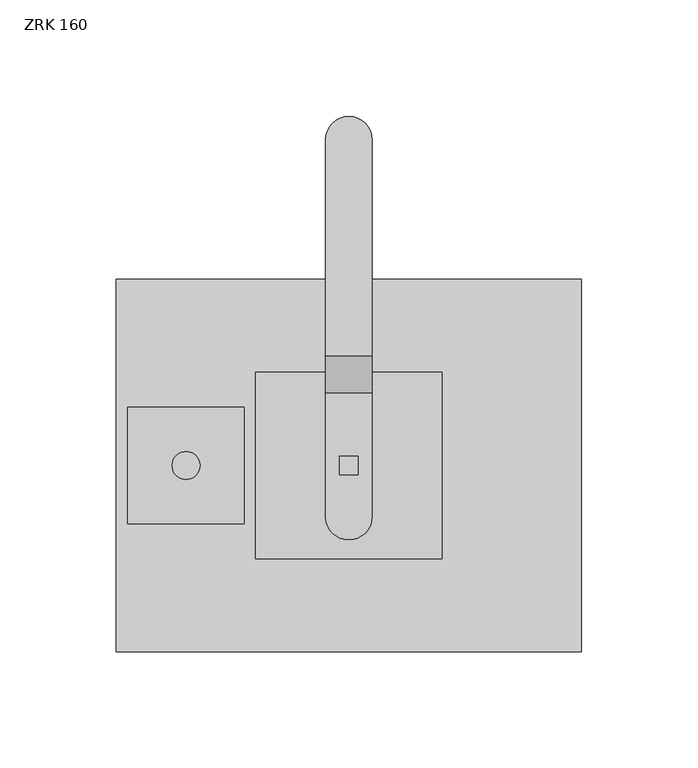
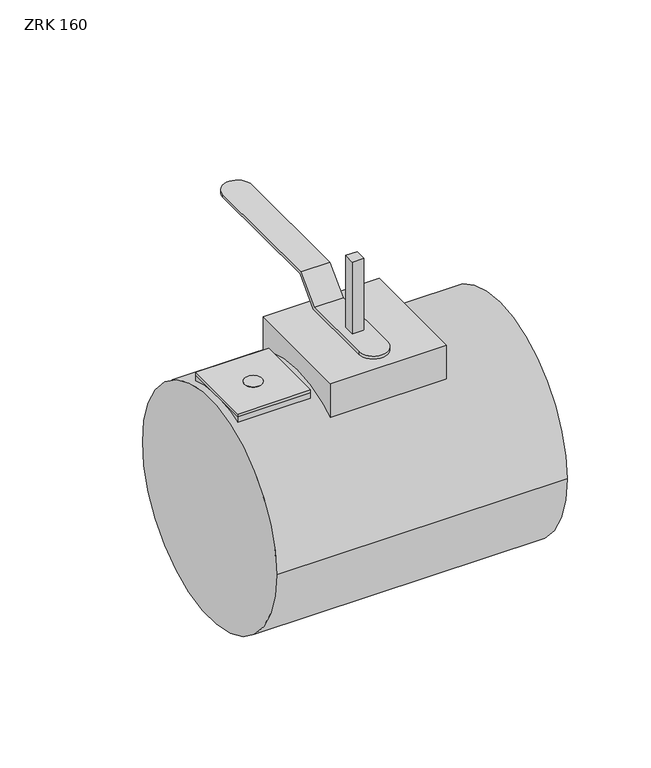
"""IFC4 building model written with IfcOpenShell, lengths in millimetres: damper geometry, KORF_Заслонка_Круглая_ZRK_Ручка : ZRK 160."""

from ifc_helpers import new_model, si_unit, point, frame, frame_2d, origin, origin_2d, place, context, project, spatial, polyline, circle_curve, trimmed, segment, composite_curve, outline, extrude, source, transform, mapped, element, save
from ifc_brep_helpers import plane_surface, cylinder_surface, revolved_surface, advanced_brep


def zrk_160_3ae2b865(model_context):
    return source(origin(), model_context, "Body", "SolidModel", [
        extrude(outline(composite_curve([segment(trimmed(circle_curve(frame_2d((30.0, 0.0)), 6.0), [point((36.0, 0.0))], [point((24.0, 0.0))], False, "CARTESIAN"), True, "CONTINUOUS"), segment(trimmed(circle_curve(frame_2d((30.0, 0.0)), 6.0), [point((24.0, 0.0))], [point((36.0, 0.0))], False, "CARTESIAN"), True, "CONTINUOUS")], self_intersect=False)), frame((0.0, 0.0, 80.0), z_axis=(0.0, 0.0, 1.0), x_axis=(1.0, 0.0, 0.0)), (0.0, 0.0, 1.0), 2.0),
        extrude(outline(polyline([(55.0, 25.0), (55.0, -25.0), (5.0, -25.0), (5.0, 25.0), (55.0, 25.0)]), holes=[composite_curve([segment(trimmed(circle_curve(frame_2d((30.0, 0.0)), 6.0), [point((24.0, 0.0))], [point((36.0, 0.0))], True, "CARTESIAN"), True, "CONTINUOUS"), segment(trimmed(circle_curve(frame_2d((30.0, 0.0)), 6.0), [point((36.0, 0.0))], [point((24.0, 0.0))], True, "CARTESIAN"), True, "CONTINUOUS")], self_intersect=False)]), frame((0.0, 0.0, 80.0), z_axis=(0.0, 0.0, 1.0), x_axis=(1.0, 0.0, 0.0)), (0.0, 0.0, 1.0), 2.0),
        extrude(outline(composite_curve([segment(trimmed(circle_curve(origin_2d(), 80.0), [point((-80.0, 0.0))], [point((80.0, 0.0))], False, "CARTESIAN"), True, "CONTINUOUS"), segment(trimmed(circle_curve(origin_2d(), 80.0), [point((80.0, 0.0))], [point((-80.0, 0.0))], False, "CARTESIAN"), True, "CONTINUOUS")], self_intersect=False)), frame((0.0, 0.0, 0.0), z_axis=(1.0, 0.0, 0.0), x_axis=(0.0, 1.0, 0.0)), (0.0, 0.0, 1.0), 200.0),
        advanced_brep(
        [(55.0, 25.0, 80.0), (5.0, 25.0, 80.0), (5.0, 0.0, 80.0), (5.0, -25.0, 80.0), (55.0, -25.0, 80.0), (55.0, 0.0, 80.0), (55.0, 25.0, 75.9934208), (5.0, 25.0, 75.9934208), (5.0, -25.0, 75.9934208), (55.0, -25.0, 75.9934208)],
        [
            (0, 1),
            (1, 2),
            (2, 3),
            (3, 4),
            (4, 5),
            (5, 0),
            (0, 6),
            (6, 7),
            (7, 1),
            (7, 2, circle_curve(frame((5.0, 0.0, 0.0), z_axis=(1.0, 0.0, 0.0), x_axis=(0.0, 0.0, -1.0)), 80.0)),
            (2, 8, circle_curve(frame((5.0, 0.0, 0.0), z_axis=(1.0, 0.0, 0.0), x_axis=(0.0, 0.0, -1.0)), 80.0)),
            (8, 3),
            (8, 9),
            (9, 4),
            (9, 5, circle_curve(frame((55.0, 0.0, 0.0), z_axis=(-1.0, 0.0, 0.0), x_axis=(0.0, 0.0, -1.0)), 80.0)),
            (5, 6, circle_curve(frame((55.0, 0.0, 0.0), z_axis=(-1.0, 0.0, 0.0), x_axis=(0.0, 0.0, -1.0)), 80.0)),
        ],
        [
            plane_surface(frame((5.0, 25.0, 80.0), z_axis=(0.0, 0.0, 1.0), x_axis=(-1.0, 0.0, 0.0))),
            plane_surface(frame((55.0, 25.0, 80.0), z_axis=(0.0, 1.0, 0.0), x_axis=(0.0, 0.0, -1.0))),
            plane_surface(frame((5.0, 25.0, 80.0), z_axis=(-1.0, 0.0, 0.0), x_axis=(0.0, 0.0, -1.0))),
            plane_surface(frame((5.0, -25.0, 80.0), z_axis=(0.0, -1.0, 0.0), x_axis=(0.0, 0.0, -1.0))),
            plane_surface(frame((55.0, -25.0, 80.0), z_axis=(1.0, 0.0, 0.0), x_axis=(0.0, 0.0, -1.0))),
            revolved_surface(polyline([(5.0, 0.0, -80.0), (55.0, 0.0, -80.0)]), (200.0, 0.0, 0.0), (-1.0, 0.0, 0.0)),
        ],
        [
            (0, [[1, 2, 3, 4, 5, 6]]),
            (1, [[-1, 7, 8, 9]]),
            (2, [[-2, -9, 10]]),
            (2, [[-3, 11, 12]]),
            (3, [[-4, -12, 13, 14]]),
            (4, [[-5, -14, 15]]),
            (4, [[-6, 16, -7]]),
            (5, [[-8, -16, -15, -13, -11, -10]]),
        ],
    ),
        extrude(outline(composite_curve([segment(polyline([(-4.0, 148.0), (4.0, 148.0), (4.0, 79.8999374)]), True, "CONTINUOUS"), segment(trimmed(circle_curve(origin_2d(), 80.0), [point((4.0, 79.8999374))], [point((-4.0, 79.8999374))], True, "CARTESIAN"), True, "CONTINUOUS"), segment(polyline([(-4.0, 79.8999374), (-4.0, 148.0)]), True, "CONTINUOUS")], self_intersect=False)), frame((96.0, 0.0, 0.0), z_axis=(1.0, 0.0, 0.0), x_axis=(0.0, 1.0, 0.0)), (0.0, 0.0, 1.0), 8.0),
        advanced_brep(
        [(90.0, 48.0, 110.0), (90.0, 32.0, 94.0), (90.0, -22.0, 94.0), (90.0, -22.0, 96.0), (90.0, 31.1715729, 96.0), (90.0, 47.1715729, 112.0), (90.0, 140.0, 112.0), (90.0, 140.0, 110.0), (110.0, 47.1715729, 112.0), (110.0, 31.1715729, 96.0), (110.0, -22.0, 96.0), (110.0, -22.0, 94.0), (110.0, 32.0, 94.0), (110.0, 48.0, 110.0), (110.0, 140.0, 110.0), (110.0, 140.0, 112.0), (100.0, 150.0, 110.0), (100.0, 150.0, 112.0), (100.0, -32.0, 96.0), (96.0, 4.0, 96.0), (104.0, 4.0, 96.0), (104.0, -4.0, 96.0), (96.0, -4.0, 96.0), (100.0, -32.0, 94.0), (104.0, 4.0, 94.0), (96.0, 4.0, 94.0), (96.0, -4.0, 94.0), (104.0, -4.0, 94.0)],
        [
            (0, 1),
            (1, 2),
            (2, 3),
            (3, 4),
            (4, 5),
            (5, 6),
            (6, 7),
            (7, 0),
            (8, 9),
            (9, 10),
            (10, 11),
            (11, 12),
            (12, 13),
            (13, 14),
            (14, 15),
            (15, 8),
            (13, 0),
            (7, 16, circle_curve(frame((100.0, 140.0, 110.0), z_axis=(0.0, 0.0, -1.0), x_axis=(1.0, 0.0, 0.0)), 10.0)),
            (16, 14, circle_curve(frame((100.0, 140.0, 110.0), z_axis=(0.0, 0.0, -1.0), x_axis=(1.0, 0.0, 0.0)), 10.0)),
            (5, 8),
            (15, 17, circle_curve(frame((100.0, 140.0, 112.0), z_axis=(0.0, 0.0, 1.0), x_axis=(1.0, 0.0, 0.0)), 10.0)),
            (17, 6, circle_curve(frame((100.0, 140.0, 112.0), z_axis=(0.0, 0.0, 1.0), x_axis=(1.0, 0.0, 0.0)), 10.0)),
            (4, 9),
            (3, 18, circle_curve(frame((100.0, -22.0, 96.0), z_axis=(0.0, 0.0, 1.0), x_axis=(1.0, 0.0, 0.0)), 10.0)),
            (18, 10, circle_curve(frame((100.0, -22.0, 96.0), z_axis=(0.0, 0.0, 1.0), x_axis=(1.0, 0.0, 0.0)), 10.0)),
            (19, 20),
            (20, 21),
            (21, 22),
            (22, 19),
            (1, 12),
            (11, 23, circle_curve(frame((100.0, -22.0, 94.0), z_axis=(0.0, 0.0, -1.0), x_axis=(1.0, 0.0, 0.0)), 10.0)),
            (23, 2, circle_curve(frame((100.0, -22.0, 94.0), z_axis=(0.0, 0.0, -1.0), x_axis=(1.0, 0.0, 0.0)), 10.0)),
            (24, 25),
            (25, 26),
            (26, 27),
            (27, 24),
            (24, 20),
            (19, 25),
            (22, 26),
            (21, 27),
        ],
        [
            plane_surface(frame((90.0, 150.0, 110.0), z_axis=(-1.0, 0.0, 0.0), x_axis=(0.0, -1.0, 0.0))),
            plane_surface(frame((110.0, 150.0, 110.0), z_axis=(1.0, 0.0, 0.0), x_axis=(0.0, 1.0, 0.0))),
            plane_surface(frame((110.0, 48.0, 110.0), z_axis=(0.0, 0.0, -1.0), x_axis=(-1.0, 0.0, 0.0))),
            plane_surface(frame((110.0, 150.0, 112.0), z_axis=(0.0, 0.0, 1.0), x_axis=(-1.0, 0.0, 0.0))),
            plane_surface(frame((110.0, 47.1715729, 112.0), z_axis=(0.0, -0.7071067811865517, 0.7071067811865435), x_axis=(-1.0, 0.0, 0.0))),
            plane_surface(frame((110.0, 31.1715729, 96.0), z_axis=(0.0, 0.0, 1.0), x_axis=(-1.0, 0.0, 0.0))),
            plane_surface(frame((110.0, -32.0, 94.0), z_axis=(0.0, 0.0, -1.0), x_axis=(-1.0, 0.0, 0.0))),
            plane_surface(frame((110.0, 32.0, 94.0), z_axis=(0.0, 0.7071067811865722, -0.7071067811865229), x_axis=(-1.0, 0.0, 0.0))),
            plane_surface(frame((104.0, 4.0, 110.0), z_axis=(0.0, -1.0, 0.0), x_axis=(0.0, 0.0, -1.0))),
            plane_surface(frame((96.0, 4.0, 110.0), z_axis=(1.0, 0.0, 0.0), x_axis=(0.0, 0.0, -1.0))),
            plane_surface(frame((96.0, -4.0, 110.0), z_axis=(0.0, 1.0, 0.0), x_axis=(0.0, 0.0, -1.0))),
            plane_surface(frame((104.0, -4.0, 110.0), z_axis=(-1.0, 0.0, 0.0), x_axis=(0.0, 0.0, -1.0))),
            cylinder_surface(frame((100.0, 140.0, 94.0), z_axis=(0.0, 0.0, -1.0), x_axis=(1.0, 0.0, 0.0)), 10.0),
            cylinder_surface(frame((100.0, -22.0, 0.0), z_axis=(0.0, 0.0, -1.0), x_axis=(1.0, 0.0, 0.0)), 10.0),
        ],
        [
            (0, [[1, 2, 3, 4, 5, 6, 7, 8]]),
            (1, [[9, 10, 11, 12, 13, 14, 15, 16]]),
            (2, [[17, -8, 18, 19, -14]]),
            (3, [[20, -16, 21, 22, -6]]),
            (4, [[-5, 23, -9, -20]]),
            (5, [[-23, -4, 24, 25, -10], [26, 27, 28, 29]]),
            (6, [[30, -12, 31, 32, -2], [33, 34, 35, 36]]),
            (7, [[-1, -17, -13, -30]]),
            (8, [[37, -26, 38, -33]]),
            (9, [[-38, -29, 39, -34]]),
            (10, [[-39, -28, 40, -35]]),
            (11, [[-37, -36, -40, -27]]),
            (12, [[-7, -22, -21, -15, -19, -18]]),
            (13, [[-3, -32, -31, -11, -25, -24]]),
        ],
    ),
        advanced_brep(
        [(140.0, 40.0, 94.0), (60.0, 40.0, 94.0), (60.0, -40.0, 94.0), (140.0, -40.0, 94.0), (96.0, 4.0, 94.0), (104.0, 4.0, 94.0), (104.0, -4.0, 94.0), (96.0, -4.0, 94.0), (140.0, 40.0, 69.2820323), (60.0, 40.0, 69.2820323), (60.0, -40.0, 69.2820323), (140.0, -40.0, 69.2820323), (104.0, 4.0, 79.8999374), (96.0, 4.0, 79.8999374), (96.0, -4.0, 79.8999374), (104.0, -4.0, 79.8999374)],
        [
            (0, 1),
            (1, 2),
            (2, 3),
            (3, 0),
            (4, 5),
            (5, 6),
            (6, 7),
            (7, 4),
            (0, 8),
            (8, 9),
            (9, 1),
            (9, 10, circle_curve(frame((60.0, 0.0, 0.0), z_axis=(1.0, 0.0, 0.0), x_axis=(0.0, 0.0, -1.0)), 80.0)),
            (10, 2),
            (10, 11),
            (11, 3),
            (11, 8, circle_curve(frame((140.0, 0.0, 0.0), z_axis=(-1.0, 0.0, 0.0), x_axis=(0.0, 0.0, -1.0)), 80.0)),
            (12, 13),
            (13, 14, circle_curve(frame((96.0, 0.0, 0.0), z_axis=(1.0, 0.0, 0.0), x_axis=(0.0, 0.0, -1.0)), 80.0)),
            (14, 15),
            (15, 12, circle_curve(frame((104.0, 0.0, 0.0), z_axis=(-1.0, 0.0, 0.0), x_axis=(0.0, 0.0, -1.0)), 80.0)),
            (12, 5),
            (4, 13),
            (7, 14),
            (6, 15),
        ],
        [
            plane_surface(frame((60.0, 40.0, 94.0), z_axis=(0.0, 0.0, 1.0), x_axis=(-1.0, 0.0, 0.0))),
            plane_surface(frame((140.0, 40.0, 94.0), z_axis=(0.0, 1.0, 0.0), x_axis=(0.0, 0.0, -1.0))),
            plane_surface(frame((60.0, 40.0, 94.0), z_axis=(-1.0, 0.0, 0.0), x_axis=(0.0, 0.0, -1.0))),
            plane_surface(frame((60.0, -40.0, 94.0), z_axis=(0.0, -1.0, 0.0), x_axis=(0.0, 0.0, -1.0))),
            plane_surface(frame((140.0, -40.0, 94.0), z_axis=(1.0, 0.0, 0.0), x_axis=(0.0, 0.0, -1.0))),
            revolved_surface(polyline([(60.0, 0.0, -80.0), (140.0, 0.0, -80.0)]), (200.0, 0.0, 0.0), (-1.0, 0.0, 0.0)),
            plane_surface(frame((104.0, 4.0, 110.0), z_axis=(0.0, -1.0, 0.0), x_axis=(0.0, 0.0, -1.0))),
            plane_surface(frame((96.0, 4.0, 110.0), z_axis=(1.0, 0.0, 0.0), x_axis=(0.0, 0.0, -1.0))),
            plane_surface(frame((96.0, -4.0, 110.0), z_axis=(0.0, 1.0, 0.0), x_axis=(0.0, 0.0, -1.0))),
            plane_surface(frame((104.0, -4.0, 110.0), z_axis=(-1.0, 0.0, 0.0), x_axis=(0.0, 0.0, -1.0))),
        ],
        [
            (0, [[1, 2, 3, 4], [5, 6, 7, 8]]),
            (1, [[-1, 9, 10, 11]]),
            (2, [[-2, -11, 12, 13]]),
            (3, [[-3, -13, 14, 15]]),
            (4, [[-4, -15, 16, -9]]),
            (5, [[-10, -16, -14, -12], [17, 18, 19, 20]]),
            (6, [[21, -5, 22, -17]]),
            (7, [[-22, -8, 23, -18]]),
            (8, [[-23, -7, 24, -19]]),
            (9, [[-21, -20, -24, -6]]),
        ],
    ),
    ])


if __name__ == "__main__":
    model = new_model("IFC4")
    model_context = context("Model", 3, world=origin())
    ifc_project = project(units=[si_unit("LENGTHUNIT", "METRE", prefix="MILLI")], contexts=[model_context])
    site = spatial("IfcSite", under=ifc_project)
    building = spatial("IfcBuilding", under=site)
    placement = place(None, origin())
    zrk_160_shape = zrk_160_3ae2b865(model_context)
    element("IfcDamper", 1, ObjectType="KORF_Заслонка_Круглая_ZRK_Ручка : ZRK 160", at=placement, inside=building, context=model_context, shape_type="MappedRepresentation", body=[
        mapped(zrk_160_shape, transform((0.0, 0.0, 0.0), x_axis=(1.0, 0.0, 0.0), y_axis=(0.0, 1.0, 0.0), z_axis=(0.0, 0.0, 1.0))),
    ])
    save(model, "model.ifc")
